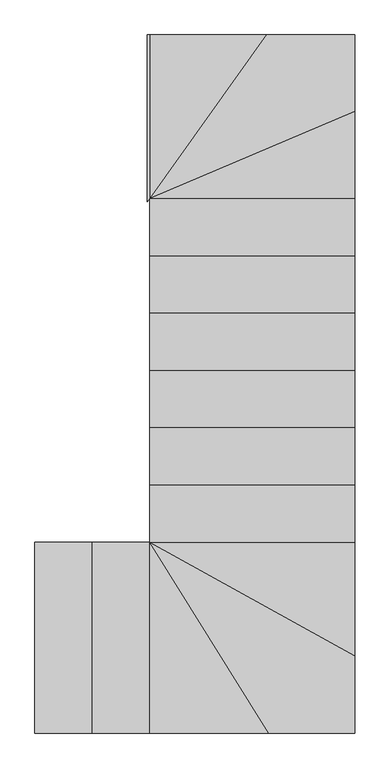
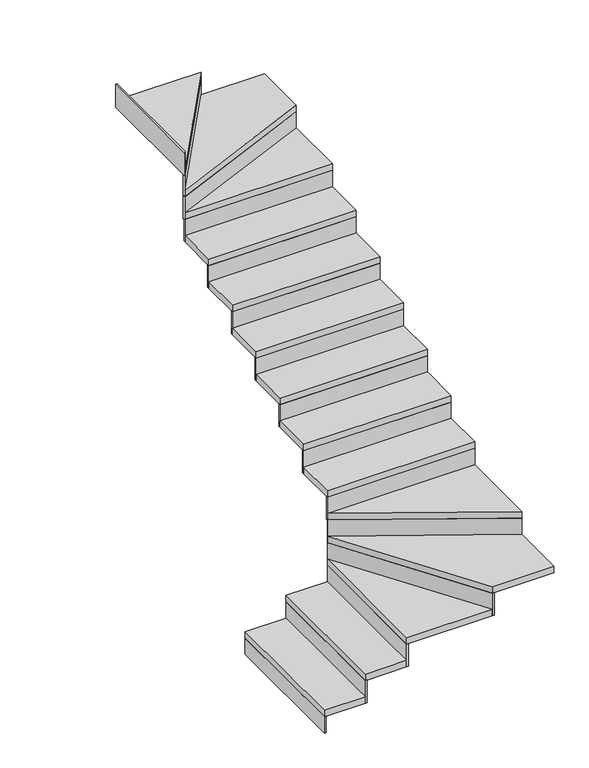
"""IFC4 building model written with IfcOpenShell, lengths in millimetres: stair flight geometry, Huella 50 mm Contrahuella 13 mm."""

from ifc_helpers import new_model, si_unit, frame, origin, origin_with_axes, place, context, project, spatial, polyline, outline, extrude, source, transform, mapped, element, save


def stair_flight_da0a1a61(model_context):
    return source(origin(), model_context, "Body", "SweptSolid", [
        extrude(outline(polyline([(-3307.0352198, -579.7257228), (-3319.5352198, -579.7257228), (-3319.5352198, 420.2742772), (-3307.0352198, 420.2742772), (-3307.0352198, -579.7257228)])), origin_with_axes(), (0.0, 0.0, 1.0), 125.0),
        extrude(outline(polyline([(-3019.5352198, 420.2742772), (-3019.5352198, -579.7257228), (-3319.5352198, -579.7257228), (-3319.5352198, 420.2742772), (-3019.5352198, 420.2742772)])), frame((0.0, 0.0, 125.0), z_axis=(0.0, 0.0, 1.0), x_axis=(1.0, 0.0, 0.0)), (0.0, 0.0, 1.0), 50.0),
        extrude(outline(polyline([(-3007.0352198, -579.7257228), (-3019.5352198, -579.7257228), (-3019.5352198, 420.2742772), (-3007.0352198, 420.2742772), (-3007.0352198, -579.7257228)])), frame((0.0, 0.0, 125.0), z_axis=(0.0, 0.0, 1.0), x_axis=(1.0, 0.0, 0.0)), (0.0, 0.0, 1.0), 175.0),
        extrude(outline(polyline([(-2719.5352198, 420.2742772), (-2719.5352198, -579.7257228), (-3019.5352198, -579.7257228), (-3019.5352198, 420.2742772), (-2719.5352198, 420.2742772)])), frame((0.0, 0.0, 300.0), z_axis=(0.0, 0.0, 1.0), x_axis=(1.0, 0.0, 0.0)), (0.0, 0.0, 1.0), 50.0),
        extrude(outline(polyline([(-2707.0352198, -579.7257228), (-2719.5352198, -579.7257228), (-2719.5352198, 420.2742772), (-2707.0352198, 400.2700956), (-2707.0352198, -579.7257228)])), frame((0.0, 0.0, 300.0), z_axis=(0.0, 0.0, 1.0), x_axis=(1.0, 0.0, 0.0)), (0.0, 0.0, 1.0), 175.0),
        extrude(outline(polyline([(-2719.5352198, 420.2742772), (-2094.6658679, -579.7257228), (-2719.5352198, -579.7257228), (-2719.5352198, 420.2742772)])), frame((0.0, 0.0, 475.0), z_axis=(0.0, 0.0, 1.0), x_axis=(1.0, 0.0, 0.0)), (0.0, 0.0, 1.0), 50.0),
        extrude(outline(polyline([(-2079.9261379, -579.7257228), (-2094.6658679, -579.7257228), (-2719.5352198, 420.2742772), (-2708.9346186, 426.898268), (-2079.9261379, -579.7257228)])), frame((0.0, 0.0, 475.0), z_axis=(0.0, 0.0, 1.0), x_axis=(1.0, 0.0, 0.0)), (0.0, 0.0, 1.0), 175.0),
        extrude(outline(polyline([(-2719.5352198, 420.2742772), (-1644.5352198, -175.6079531), (-1644.5352198, -579.7257228), (-2094.6658679, -579.7257228), (-2719.5352198, 420.2742772)])), frame((0.0, 0.0, 650.0), z_axis=(0.0, 0.0, 1.0), x_axis=(1.0, 0.0, 0.0)), (0.0, 0.0, 1.0), 50.0),
        extrude(outline(polyline([(-1644.5352198, 2232.7742772), (-1644.5352198, 2220.2742772), (-2719.5352198, 2220.2742772), (-2719.5352198, 2232.7742772), (-1644.5352198, 2232.7742772)])), frame((0.0, 0.0, 1875.0), z_axis=(0.0, 0.0, 1.0), x_axis=(1.0, 0.0, 0.0)), (0.0, 0.0, 1.0), 175.0),
        extrude(outline(polyline([(-2719.5352198, 2220.2742772), (-1644.5352198, 2676.5847046), (-1644.5352198, 2220.2742772), (-2719.5352198, 2220.2742772)])), frame((0.0, 0.0, 2050.0), z_axis=(0.0, 0.0, 1.0), x_axis=(1.0, 0.0, 0.0)), (0.0, 0.0, 1.0), 50.0),
        extrude(outline(polyline([(-1644.5352198, 2690.1642093), (-1644.5352198, 2676.5847046), (-2719.5352198, 2220.2742772), (-2724.4193589, 2231.7805878), (-1644.5352198, 2690.1642093)])), frame((0.0, 0.0, 2050.0), z_axis=(0.0, 0.0, 1.0), x_axis=(1.0, 0.0, 0.0)), (0.0, 0.0, 1.0), 175.0),
        extrude(outline(polyline([(-2719.5352198, 2220.2742772), (-2109.4477042, 3075.2742772), (-1644.5352198, 3075.2742772), (-1644.5352198, 2676.5847046), (-2719.5352198, 2220.2742772)])), frame((0.0, 0.0, 2225.0), z_axis=(0.0, 0.0, 1.0), x_axis=(1.0, 0.0, 0.0)), (0.0, 0.0, 1.0), 50.0),
        extrude(outline(polyline([(-2732.0352198, 3075.2742772), (-2719.5352198, 3075.2742772), (-2719.5352198, 2220.2742772), (-2732.0352198, 2202.7562986), (-2732.0352198, 3075.2742772)])), frame((0.0, 0.0, 2400.0), z_axis=(0.0, 0.0, 1.0), x_axis=(1.0, 0.0, 0.0)), (0.0, 0.0, 1.0), 175.0),
        extrude(outline(polyline([(-1644.5352198, -161.3160273), (-1644.5352198, -175.6079531), (-2719.5352198, 420.2742772), (-2713.4750996, 431.2070235), (-1644.5352198, -161.3160273)])), frame((0.0, 0.0, 650.0), z_axis=(0.0, 0.0, 1.0), x_axis=(1.0, 0.0, 0.0)), (0.0, 0.0, 1.0), 175.0),
        extrude(outline(polyline([(-2719.5352198, 420.2742772), (-1644.5352198, 420.2742772), (-1644.5352198, -175.6079531), (-2719.5352198, 420.2742772)])), frame((0.0, 0.0, 825.0), z_axis=(0.0, 0.0, 1.0), x_axis=(1.0, 0.0, 0.0)), (0.0, 0.0, 1.0), 50.0),
        extrude(outline(polyline([(-1644.5352198, 432.7742772), (-1644.5352198, 420.2742772), (-2719.5352198, 420.2742772), (-2719.5352198, 432.7742772), (-1644.5352198, 432.7742772)])), frame((0.0, 0.0, 825.0), z_axis=(0.0, 0.0, 1.0), x_axis=(1.0, 0.0, 0.0)), (0.0, 0.0, 1.0), 175.0),
        extrude(outline(polyline([(-2719.5352198, 720.2742772), (-1644.5352198, 720.2742772), (-1644.5352198, 420.2742772), (-2719.5352198, 420.2742772), (-2719.5352198, 720.2742772)])), frame((0.0, 0.0, 1000.0), z_axis=(0.0, 0.0, 1.0), x_axis=(1.0, 0.0, 0.0)), (0.0, 0.0, 1.0), 50.0),
        extrude(outline(polyline([(-1644.5352198, 732.7742772), (-1644.5352198, 720.2742772), (-2719.5352198, 720.2742772), (-2719.5352198, 732.7742772), (-1644.5352198, 732.7742772)])), frame((0.0, 0.0, 1000.0), z_axis=(0.0, 0.0, 1.0), x_axis=(1.0, 0.0, 0.0)), (0.0, 0.0, 1.0), 175.0),
        extrude(outline(polyline([(-2719.5352198, 1020.2742772), (-1644.5352198, 1020.2742772), (-1644.5352198, 720.2742772), (-2719.5352198, 720.2742772), (-2719.5352198, 1020.2742772)])), frame((0.0, 0.0, 1175.0), z_axis=(0.0, 0.0, 1.0), x_axis=(1.0, 0.0, 0.0)), (0.0, 0.0, 1.0), 50.0),
        extrude(outline(polyline([(-1644.5352198, 1032.7742772), (-1644.5352198, 1020.2742772), (-2719.5352198, 1020.2742772), (-2719.5352198, 1032.7742772), (-1644.5352198, 1032.7742772)])), frame((0.0, 0.0, 1175.0), z_axis=(0.0, 0.0, 1.0), x_axis=(1.0, 0.0, 0.0)), (0.0, 0.0, 1.0), 175.0),
        extrude(outline(polyline([(-2719.5352198, 1320.2742772), (-1644.5352198, 1320.2742772), (-1644.5352198, 1020.2742772), (-2719.5352198, 1020.2742772), (-2719.5352198, 1320.2742772)])), frame((0.0, 0.0, 1350.0), z_axis=(0.0, 0.0, 1.0), x_axis=(1.0, 0.0, 0.0)), (0.0, 0.0, 1.0), 50.0),
        extrude(outline(polyline([(-1644.5352198, 1332.7742772), (-1644.5352198, 1320.2742772), (-2719.5352198, 1320.2742772), (-2719.5352198, 1332.7742772), (-1644.5352198, 1332.7742772)])), frame((0.0, 0.0, 1350.0), z_axis=(0.0, 0.0, 1.0), x_axis=(1.0, 0.0, 0.0)), (0.0, 0.0, 1.0), 175.0),
        extrude(outline(polyline([(-2719.5352198, 1620.2742772), (-1644.5352198, 1620.2742772), (-1644.5352198, 1320.2742772), (-2719.5352198, 1320.2742772), (-2719.5352198, 1620.2742772)])), frame((0.0, 0.0, 1525.0), z_axis=(0.0, 0.0, 1.0), x_axis=(1.0, 0.0, 0.0)), (0.0, 0.0, 1.0), 50.0),
        extrude(outline(polyline([(-1644.5352198, 1632.7742772), (-1644.5352198, 1620.2742772), (-2719.5352198, 1620.2742772), (-2719.5352198, 1632.7742772), (-1644.5352198, 1632.7742772)])), frame((0.0, 0.0, 1525.0), z_axis=(0.0, 0.0, 1.0), x_axis=(1.0, 0.0, 0.0)), (0.0, 0.0, 1.0), 175.0),
        extrude(outline(polyline([(-2719.5352198, 1920.2742772), (-1644.5352198, 1920.2742772), (-1644.5352198, 1620.2742772), (-2719.5352198, 1620.2742772), (-2719.5352198, 1920.2742772)])), frame((0.0, 0.0, 1700.0), z_axis=(0.0, 0.0, 1.0), x_axis=(1.0, 0.0, 0.0)), (0.0, 0.0, 1.0), 50.0),
        extrude(outline(polyline([(-1644.5352198, 1932.7742772), (-1644.5352198, 1920.2742772), (-2719.5352198, 1920.2742772), (-2719.5352198, 1932.7742772), (-1644.5352198, 1932.7742772)])), frame((0.0, 0.0, 1700.0), z_axis=(0.0, 0.0, 1.0), x_axis=(1.0, 0.0, 0.0)), (0.0, 0.0, 1.0), 175.0),
        extrude(outline(polyline([(-2719.5352198, 2220.2742772), (-1644.5352198, 2220.2742772), (-1644.5352198, 1920.2742772), (-2719.5352198, 1920.2742772), (-2719.5352198, 2220.2742772)])), frame((0.0, 0.0, 1875.0), z_axis=(0.0, 0.0, 1.0), x_axis=(1.0, 0.0, 0.0)), (0.0, 0.0, 1.0), 50.0),
        extrude(outline(polyline([(-2124.8036751, 3075.2742772), (-2109.4477042, 3075.2742772), (-2719.5352198, 2220.2742772), (-2719.5352198, 2241.7947226), (-2124.8036751, 3075.2742772)])), frame((0.0, 0.0, 2225.0), z_axis=(0.0, 0.0, 1.0), x_axis=(1.0, 0.0, 0.0)), (0.0, 0.0, 1.0), 175.0),
        extrude(outline(polyline([(-2719.5352198, 2220.2742772), (-2719.5352198, 3075.2742772), (-2109.4477042, 3075.2742772), (-2719.5352198, 2220.2742772)])), frame((0.0, 0.0, 2400.0), z_axis=(0.0, 0.0, 1.0), x_axis=(1.0, 0.0, 0.0)), (0.0, 0.0, 1.0), 50.0),
    ])


if __name__ == "__main__":
    model = new_model("IFC4")
    model_context = context("Model", 3, world=origin())
    ifc_project = project(units=[si_unit("LENGTHUNIT", "METRE", prefix="MILLI")], contexts=[model_context])
    site = spatial("IfcSite", under=ifc_project)
    building = spatial("IfcBuilding", under=site)
    placement = place(None, origin())
    stair_flight_shape = stair_flight_da0a1a61(model_context)
    element("IfcStairFlight", 1, ObjectType="Huella 50 mm Contrahuella 13 mm", at=placement, inside=building, context=model_context, shape_type="MappedRepresentation", body=[
        mapped(stair_flight_shape, transform((0.0, 0.0, 0.0), x_axis=(1.0, 0.0, 0.0), y_axis=(0.0, 1.0, 0.0), z_axis=(0.0, 0.0, 1.0))),
    ])
    save(model, "model.ifc")
